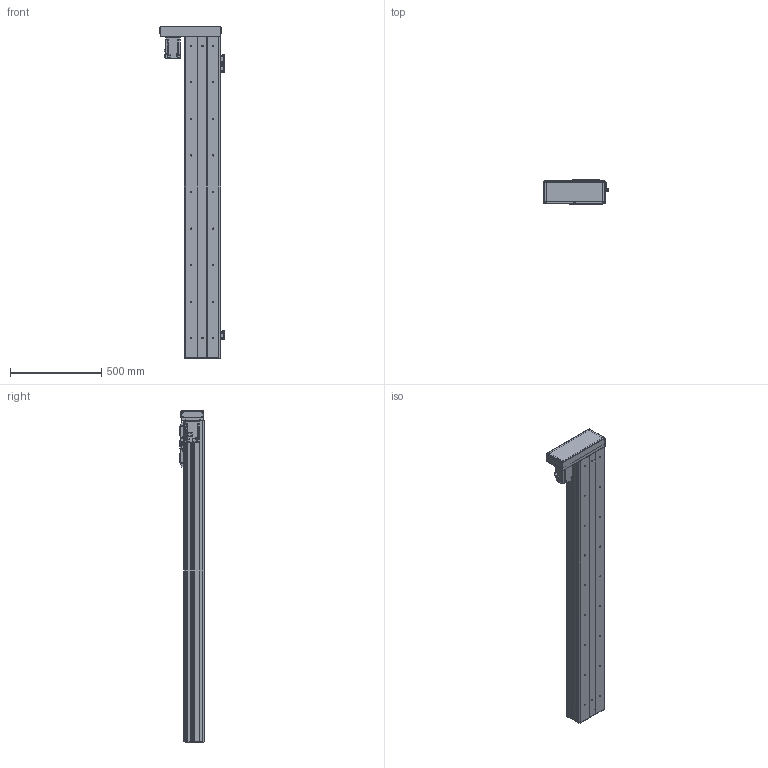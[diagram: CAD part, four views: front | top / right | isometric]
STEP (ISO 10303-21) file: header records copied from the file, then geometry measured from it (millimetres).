
FILE_DESCRIPTION(/* description */ ('MANUFACTURE'),/* implementation_level */ '2;1');
FILE_NAME(/* name */ '\\192.168.0.160\disk1\HAN SHIN Master\B-설계부문\C-표준\B-2024년\BC02-표준도면\+로봇 개선표준도면\표준 승인도 폴더 - 재작업\3D\HC Type\HC200\좌병렬\HC200-L70-N-1500-R10.stp',/* time_stamp */ '2024-03-25T09:43:45+09:00',/* author */ ('User'),/* organization */ (''),/* preprocessor_version */ 'ST-DEVELOPER v18.1',/* originating_system */ 'Autodesk Inventor 2022',/* authorisation */ 'LIP');
FILE_SCHEMA (('AUTOMOTIVE_DESIGN { 1 0 10303 214 3 1 1 }'));
Products named in the file (28): HC200-L70-N-0500-R10 - 간소화; HC200 S BASE F - 1100ST; HC90 REAR COVER; HC200 TABLE COVER - 개주; HC75 SENSOR DOG; HC200-STEEL SHEET F - 1100ST; LMKE2020 NUT; HR180 FRONT BLOCK; HR120 STOPPER; HC200 TABLE; HR180 FRONT BLOCK_1; HC200 SIDE COVER F - 1100ST; HC140 SHEET PLATE; HC65 TABLE SIDE COVER; M-5UT; M-5H-4; hg-kr73_; 750W MOTOR PLATE; HR200 ACRYL COVER -1; HR200 ACRYL COVER -1_1; HG200 750W LR MOTOR PLATE-사출; HR160 400W LR BELT COVER; HR200 ACRYL COVER -1_2; 화살표; SENSOR BRK(EE-SX674A); EE_SX674A; hsr_ftht_A-M6F_grease_nipple_joint; NIPPLE CAP(신규)
Assembly tree (49 placements, depth 2):
  HC200-L70-N-0500-R10 - 간소화
    HC200 S BASE F - 1100ST
    HC90 REAR COVER
    HC200 TABLE COVER - 개주
    HC65 TABLE SIDE COVER  x2
    HC75 SENSOR DOG
    HC200-STEEL SHEET F - 1100ST
    LMKE2020 NUT
    HR120 STOPPER  x2
    HR180 FRONT BLOCK
    HC200 SIDE COVER F - 1100ST  x2
    HC200 TABLE
    HR180 FRONT BLOCK_1
    HC140 SHEET PLATE  x2
    hsr_ftht_A-M6F_grease_nipple_joint  x5
    NIPPLE CAP(신규)  x5
    M-5UT  x2
    M-5H-4  x4
    hg-kr73_
    750W MOTOR PLATE
    HR200 ACRYL COVER -1
    HR200 ACRYL COVER -1_1
    HR200 ACRYL COVER -1_2  x2
    HG200 750W LR MOTOR PLATE-사출
    HR160 400W LR BELT COVER
    화살표  x2
    SENSOR BRK(EE-SX674A)  x3
    EE_SX674A  x3
Bounding box: 351 x 132 x 1816 mm (x, y, z)
Volume: 12586053.9 mm3; surface area: 3798292.7 mm2
Topology: 51 solids, 51 shells, 4371 faces, 11898 edges, 7815 vertices
Faces by surface type: plane 3038, cylinder 887, cone 352, sphere 44, torus 30, bspline 20
Full cylindrical faces by diameter (mm): 1.8 x4, 2 x6, 2.459 x58, 2.5 x6, 3 x16, 3.242 x23, 3.4 x24, 3.5 x12, 4 x6, 4.134 x12, 4.5 x26, 4.917 x29, 5 x26, 5.5 x5, 5.6 x5, 5.9 x4, 6 x11, 6.5 x14, 6.6 x32, 6.647 x28, 6.8 x2, 7 x10, 7.6 x4, 8 x6, 9 x10, 9.5 x1, 10.5 x8, 11 x36, 19 x1, 20 x1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
Entity records: 112565 total; most frequent: CARTESIAN_POINT 20511, ORIENTED_EDGE 19052, DIRECTION 18046, EDGE_CURVE 9526, LINE 7844, VECTOR 7844, VERTEX_POINT 6341, AXIS2_PLACEMENT_3D 5101
